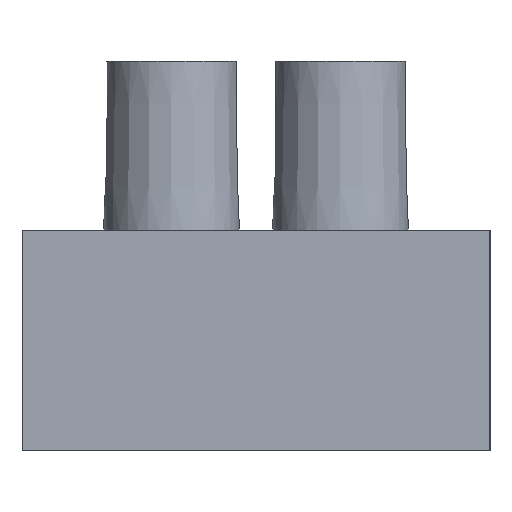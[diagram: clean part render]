
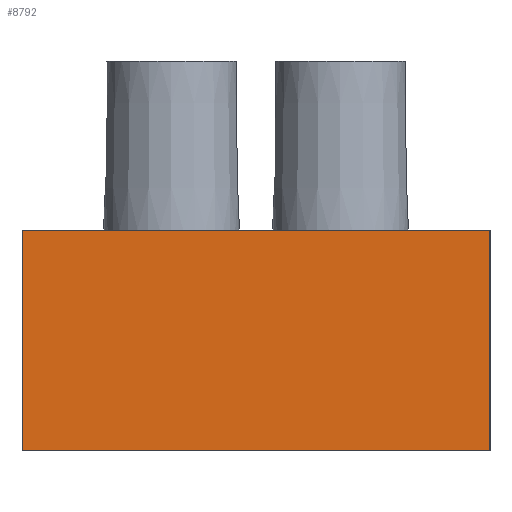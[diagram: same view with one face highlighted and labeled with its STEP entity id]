
A CAD part, left-side view. The second image highlights one B-rep face of the part: STEP entity #8792.
In plain terms, the highlighted planar face has unit normal (-1, 0, 0).
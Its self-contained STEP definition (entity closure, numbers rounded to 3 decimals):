
#1034=ORIENTED_EDGE('',*,*,#2976,.T.);
#1035=ORIENTED_EDGE('',*,*,#3048,.F.);
#1036=ORIENTED_EDGE('',*,*,#2880,.F.);
#1037=ORIENTED_EDGE('',*,*,#3350,.T.);
#2880=EDGE_CURVE('',#4115,#4116,#4974,.T.);
#2976=EDGE_CURVE('',#4211,#4212,#5058,.T.);
#3048=EDGE_CURVE('',#4116,#4212,#5104,.T.);
#3350=EDGE_CURVE('',#4115,#4211,#5376,.T.);
#4115=VERTEX_POINT('',#12636);
#4116=VERTEX_POINT('',#12637);
#4211=VERTEX_POINT('',#12840);
#4212=VERTEX_POINT('',#12841);
#4974=LINE('',#12635,#5914);
#5058=LINE('',#12839,#5998);
#5104=LINE('',#12984,#6044);
#5376=LINE('',#13585,#6316);
#5914=VECTOR('',#10061,1000.);
#5998=VECTOR('',#10193,1000.);
#6044=VECTOR('',#10295,1000.);
#6316=VECTOR('',#10771,1000.);
#6999=EDGE_LOOP('',(#1034,#1035,#1036,#1037));
#7711=FACE_BOUND('',#6999,.T.);
#8360=PLANE('',#9395);
#8792=ADVANCED_FACE('',(#7711),#8360,.F.);
#9395=AXIS2_PLACEMENT_3D('',#13594,#10776,#10777);
#10061=DIRECTION('',(0.,0.,1.));
#10193=DIRECTION('',(0.,0.,1.));
#10295=DIRECTION('',(0.,-1.,0.));
#10771=DIRECTION('',(0.,-1.,0.));
#10776=DIRECTION('',(1.,0.,0.));
#10777=DIRECTION('',(0.,0.,-1.));
#12635=CARTESIAN_POINT('',(-3.,17.,-4.25));
#12636=CARTESIAN_POINT('',(-3.,17.,-4.25));
#12637=CARTESIAN_POINT('',(-3.,17.,4.25));
#12839=CARTESIAN_POINT('',(-3.,-1.,-4.25));
#12840=CARTESIAN_POINT('',(-3.,-1.,-4.25));
#12841=CARTESIAN_POINT('',(-3.,-1.,4.25));
#12984=CARTESIAN_POINT('',(-3.,16.,4.25));
#13585=CARTESIAN_POINT('',(-3.,16.,-4.25));
#13594=CARTESIAN_POINT('',(-3.,16.,-4.25));
